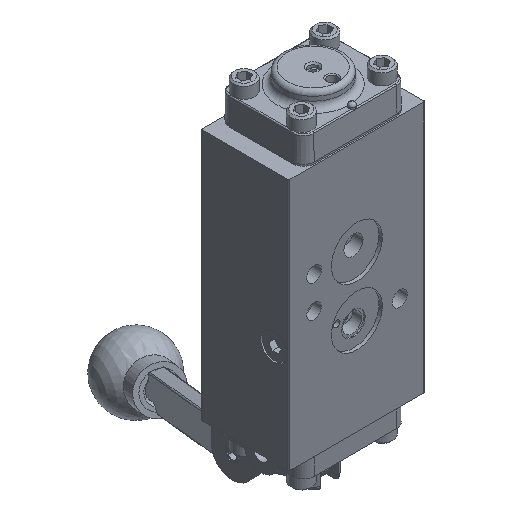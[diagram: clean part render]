
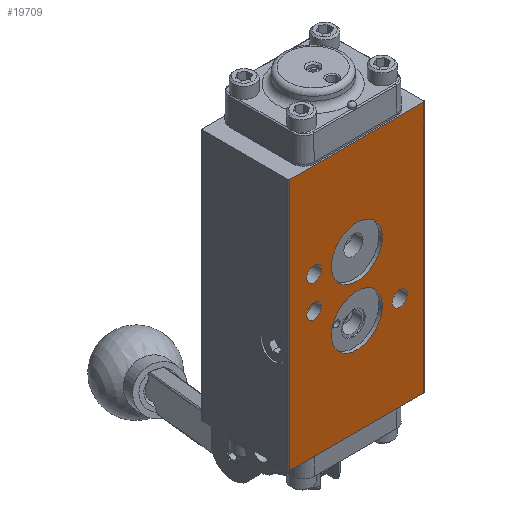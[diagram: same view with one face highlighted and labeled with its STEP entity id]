
A CAD part, isometric view. The second image highlights one B-rep face of the part: STEP entity #19709.
In plain terms, the highlighted planar face has unit normal (0, -1, 0).
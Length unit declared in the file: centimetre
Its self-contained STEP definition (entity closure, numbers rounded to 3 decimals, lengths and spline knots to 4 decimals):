
#537=FACE_BOUND('',#3611,.T.);
#538=FACE_BOUND('',#3612,.T.);
#539=FACE_BOUND('',#3613,.T.);
#540=FACE_BOUND('',#3614,.T.);
#541=FACE_BOUND('',#3615,.T.);
#771=PLANE('',#21081);
#1338=CIRCLE('',#21042,0.9525);
#1340=CIRCLE('',#21046,0.9525);
#1343=CIRCLE('',#21052,0.2756);
#1344=CIRCLE('',#21054,0.2778);
#1345=CIRCLE('',#21056,0.2778);
#2392=FACE_OUTER_BOUND('',#3610,.T.);
#3610=EDGE_LOOP('',(#13970,#13971,#13972,#13973));
#3611=EDGE_LOOP('',(#13974));
#3612=EDGE_LOOP('',(#13975));
#3613=EDGE_LOOP('',(#13976));
#3614=EDGE_LOOP('',(#13977));
#3615=EDGE_LOOP('',(#13978));
#5195=LINE('',#28804,#6568);
#5202=LINE('',#28837,#6575);
#5528=LINE('',#31202,#6901);
#5531=LINE('',#31208,#6904);
#6568=VECTOR('',#23054,1.);
#6575=VECTOR('',#23081,1.);
#6901=VECTOR('',#24019,1.);
#6904=VECTOR('',#24028,1.);
#7974=VERTEX_POINT('',#28790);
#7980=VERTEX_POINT('',#28802);
#7994=VERTEX_POINT('',#28833);
#7996=VERTEX_POINT('',#28836);
#8365=VERTEX_POINT('',#31135);
#8367=VERTEX_POINT('',#31142);
#8371=VERTEX_POINT('',#31154);
#8372=VERTEX_POINT('',#31158);
#8373=VERTEX_POINT('',#31162);
#9845=EDGE_CURVE('',#7974,#7980,#5195,.T.);
#9860=EDGE_CURVE('',#7996,#7994,#5202,.T.);
#10409=EDGE_CURVE('',#8365,#8365,#1338,.T.);
#10412=EDGE_CURVE('',#8367,#8367,#1340,.T.);
#10417=EDGE_CURVE('',#8371,#8371,#1343,.T.);
#10420=EDGE_CURVE('',#8372,#8372,#1344,.T.);
#10422=EDGE_CURVE('',#8373,#8373,#1345,.T.);
#10441=EDGE_CURVE('',#7974,#7994,#5528,.T.);
#10444=EDGE_CURVE('',#7996,#7980,#5531,.T.);
#13970=ORIENTED_EDGE('',*,*,#10441,.F.);
#13971=ORIENTED_EDGE('',*,*,#9845,.T.);
#13972=ORIENTED_EDGE('',*,*,#10444,.F.);
#13973=ORIENTED_EDGE('',*,*,#9860,.T.);
#13974=ORIENTED_EDGE('',*,*,#10409,.T.);
#13975=ORIENTED_EDGE('',*,*,#10412,.T.);
#13976=ORIENTED_EDGE('',*,*,#10417,.T.);
#13977=ORIENTED_EDGE('',*,*,#10420,.T.);
#13978=ORIENTED_EDGE('',*,*,#10422,.T.);
#19709=ADVANCED_FACE('',(#2392,#537,#538,#539,#540,#541),#771,.T.);
#21042=AXIS2_PLACEMENT_3D('',#31136,#23934,#23935);
#21046=AXIS2_PLACEMENT_3D('',#31143,#23943,#23944);
#21052=AXIS2_PLACEMENT_3D('',#31155,#23957,#23958);
#21054=AXIS2_PLACEMENT_3D('',#31160,#23963,#23964);
#21056=AXIS2_PLACEMENT_3D('',#31164,#23968,#23969);
#21081=AXIS2_PLACEMENT_3D('',#31211,#24033,#24034);
#23054=DIRECTION('',(1.,0.,0.));
#23081=DIRECTION('',(-1.,0.,0.));
#23934=DIRECTION('center_axis',(0.,1.,0.));
#23935=DIRECTION('ref_axis',(-1.,0.,0.));
#23943=DIRECTION('center_axis',(0.,1.,0.));
#23944=DIRECTION('ref_axis',(-1.,0.,0.));
#23957=DIRECTION('center_axis',(0.,1.,0.));
#23958=DIRECTION('ref_axis',(1.,0.,0.));
#23963=DIRECTION('center_axis',(0.,1.,0.));
#23964=DIRECTION('ref_axis',(1.,0.,0.));
#23968=DIRECTION('center_axis',(0.,1.,0.));
#23969=DIRECTION('ref_axis',(1.,0.,0.));
#24019=DIRECTION('',(0.,0.,1.));
#24028=DIRECTION('',(0.,0.,-1.));
#24033=DIRECTION('center_axis',(0.,-1.,0.));
#24034=DIRECTION('ref_axis',(0.,0.,-1.));
#28790=CARTESIAN_POINT('',(-2.5003,-1.6358,-4.7104));
#28802=CARTESIAN_POINT('',(2.5003,-1.6358,-4.7104));
#28804=CARTESIAN_POINT('',(-2.54,-1.6358,-4.7104));
#28833=CARTESIAN_POINT('',(-2.5003,-1.6358,4.7104));
#28836=CARTESIAN_POINT('',(2.5003,-1.6358,4.7104));
#28837=CARTESIAN_POINT('',(-2.54,-1.6358,4.7104));
#31135=CARTESIAN_POINT('',(0.9525,-1.6358,1.1113));
#31136=CARTESIAN_POINT('Origin',(0.,-1.6358,1.1113));
#31142=CARTESIAN_POINT('',(0.9525,-1.6358,-1.1113));
#31143=CARTESIAN_POINT('Origin',(0.,-1.6358,-1.1113));
#31154=CARTESIAN_POINT('',(-1.8758,-1.6358,-0.0013));
#31155=CARTESIAN_POINT('Origin',(-1.6002,-1.6358,-0.0013));
#31158=CARTESIAN_POINT('',(1.3224,-1.6358,-1.2002));
#31160=CARTESIAN_POINT('Origin',(1.6002,-1.6358,-1.2002));
#31162=CARTESIAN_POINT('',(-1.878,-1.6358,1.2002));
#31164=CARTESIAN_POINT('Origin',(-1.6002,-1.6358,1.2002));
#31202=CARTESIAN_POINT('',(-2.5003,-1.6358,0.));
#31208=CARTESIAN_POINT('',(2.5003,-1.6358,0.));
#31211=CARTESIAN_POINT('Origin',(2.54,-1.6358,0.));
